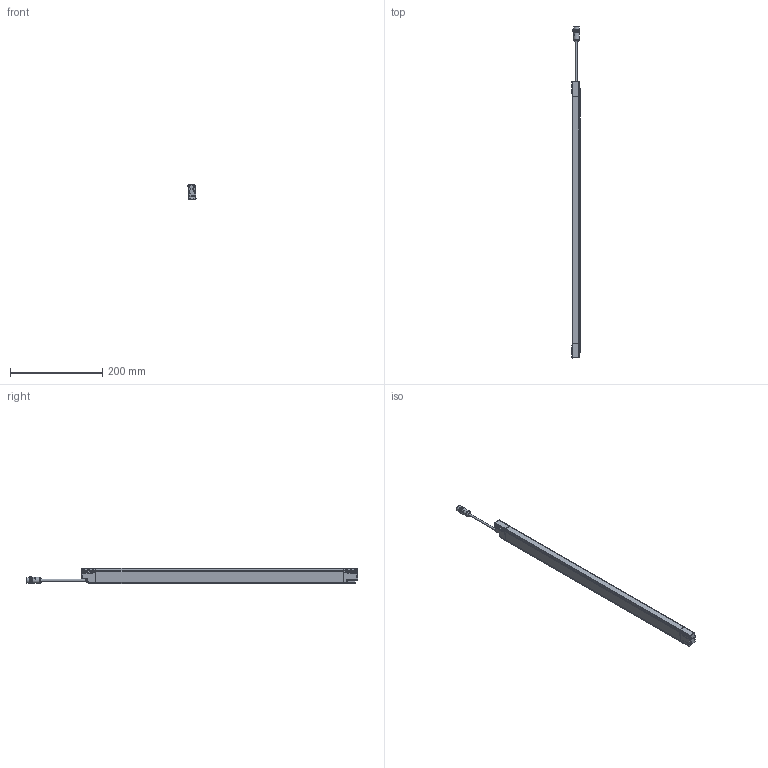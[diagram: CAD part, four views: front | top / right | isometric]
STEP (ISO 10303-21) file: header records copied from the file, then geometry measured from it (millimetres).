
FILE_DESCRIPTION(/* description */ (''),/* implementation_level */ '2;1');
FILE_NAME(/* name */ 'DSD-0635.stp',/* time_stamp */ '2015-02-23T17:16:58+01:00',/* author */ (''),/* organization */ (''),/* preprocessor_version */ 'ST-DEVELOPER v11',/* originating_system */ 'SIEMENS PLM Software NX 7.5',/* authorisation */ '');
FILE_SCHEMA (('AUTOMOTIVE_DESIGN { 1 0 10303 214 1 1 1 1 }'));
Length unit declared in the file: millimetre
Products named in the file (1): AP008114_00
Bounding box: 17.36 x 720.24 x 33.46 mm (x, y, z)
Surface area: 73956.4 mm2 (no closed solid volume)
Topology: 0 solids, 46 shells, 1101 faces, 3738 edges, 2553 vertices
Faces by surface type: cylinder 405, plane 329, bspline 153, torus 113, sphere 68, cone 33
Full cylindrical faces by diameter (mm): 1 x5, 1.2 x2, 2.6 x6, 4 x1, 8.3 x1, 9.4 x1, 10.4 x1, 12 x1, 13 x1, 13.5 x1, 14.5 x2
Entity records: 46614 total; most frequent: CARTESIAN_POINT 15032, DIRECTION 6740, ORIENTED_EDGE 5873, EDGE_CURVE 3620, AXIS2_PLACEMENT_3D 2533, VERTEX_POINT 2522, LINE 1674, VECTOR 1674
